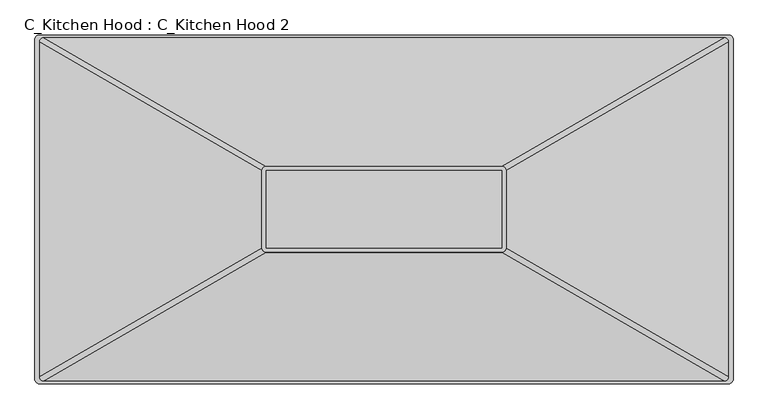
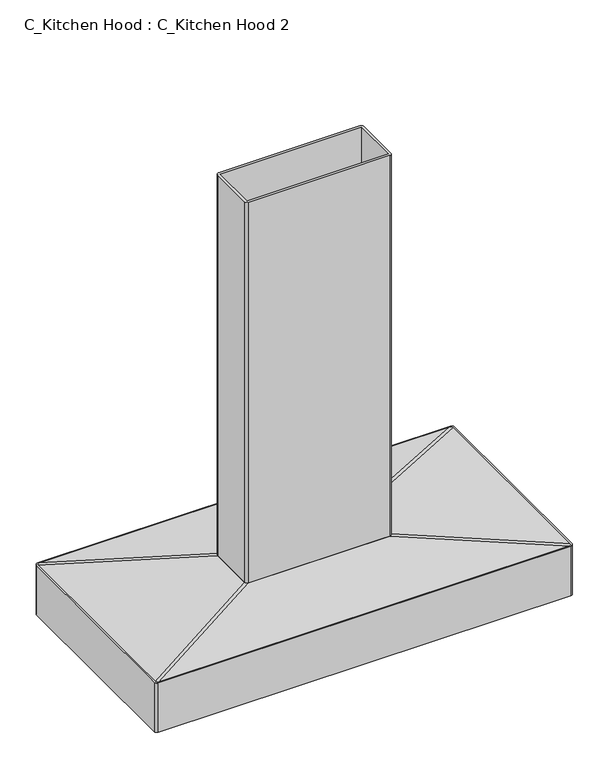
"""IFC4 building model written with IfcOpenShell, lengths in millimetres: proxy geometry, C_Kitchen Hood : C_Kitchen Hood 2."""

from ifc_helpers import new_model, si_unit, point, frame, frame_2d, origin, origin_with_axes, place, context, project, spatial, polyline, circle_curve, trimmed, segment, composite_curve, outline, extrude, source, transform, mapped, element, save
from ifc_brep_helpers import plane_surface, extruded_surface, advanced_brep


def c_kitchen_hood_c_kitchen_hood_2_cbf3ad54(model_context):
    return source(origin(), model_context, "Body", "SolidModel", [
        extrude(outline(composite_curve([segment(trimmed(circle_curve(frame_2d((501.65, 250.4531284)), 6.35), [point((501.65, 256.8031284))], [point((508.0, 250.4531284))], False, "CARTESIAN"), True, "CONTINUOUS"), segment(polyline([(508.0, 250.4531284), (508.0, -244.8468716)]), True, "CONTINUOUS"), segment(trimmed(circle_curve(frame_2d((501.65, -244.8468716)), 6.35), [point((508.0, -244.8468716))], [point((501.65, -251.1968716))], False, "CARTESIAN"), True, "CONTINUOUS"), segment(polyline([(501.65, -251.1968716), (-501.65, -251.1968716)]), True, "CONTINUOUS"), segment(trimmed(circle_curve(frame_2d((-501.65, -244.8468716)), 6.35), [point((-501.65, -251.1968716))], [point((-508.0, -244.8468716))], False, "CARTESIAN"), True, "CONTINUOUS"), segment(polyline([(-508.0, -244.8468716), (-508.0, 250.4531284)]), True, "CONTINUOUS"), segment(trimmed(circle_curve(frame_2d((-501.65, 250.4531284)), 6.35), [point((-508.0, 250.4531284))], [point((-501.65, 256.8031284))], False, "CARTESIAN"), True, "CONTINUOUS"), segment(polyline([(-501.65, 256.8031284), (501.65, 256.8031284)]), True, "CONTINUOUS")], self_intersect=False), holes=[polyline([(457.2, 206.0031284), (-457.2, 206.0031284), (-457.2, -200.3968716), (457.2, -200.3968716), (457.2, 206.0031284)])]), origin_with_axes(), (0.0, 0.0, 1.0), 127.0),
        extrude(outline(composite_curve([segment(polyline([(-177.8, -53.3469326), (-177.8, 58.9531894)]), True, "CONTINUOUS"), segment(trimmed(circle_curve(frame_2d((-171.45, 58.9531894)), 6.35), [point((-177.8, 58.9531894))], [point((-171.45, 65.3031894))], False, "CARTESIAN"), True, "CONTINUOUS"), segment(polyline([(-171.45, 65.3031894), (171.45, 65.3031894)]), True, "CONTINUOUS"), segment(trimmed(circle_curve(frame_2d((171.45, 58.9531894)), 6.35), [point((171.45, 65.3031894))], [point((177.8, 58.9531894))], False, "CARTESIAN"), True, "CONTINUOUS"), segment(polyline([(177.8, 58.9531894), (177.8, -53.3469326)]), True, "CONTINUOUS"), segment(trimmed(circle_curve(frame_2d((171.45, -53.3469326)), 6.35), [point((177.8, -53.3469326))], [point((171.45, -59.6969326))], False, "CARTESIAN"), True, "CONTINUOUS"), segment(polyline([(171.45, -59.6969326), (-171.45, -59.6969326)]), True, "CONTINUOUS"), segment(trimmed(circle_curve(frame_2d((-171.45, -53.3469326)), 6.35), [point((-171.45, -59.6969326))], [point((-177.8, -53.3469326))], False, "CARTESIAN"), True, "CONTINUOUS")], self_intersect=False), holes=[polyline([(171.45, 58.9531894), (-171.45, 58.9531894), (-171.45, -53.3469326), (171.45, -53.3469326), (171.45, 58.9531894)])]), frame((0.0, 0.0, 152.4), z_axis=(0.0, 0.0, 1.0), x_axis=(1.0, 0.0, 0.0)), (0.0, 0.0, 1.0), 977.9),
        advanced_brep(
        [(-177.8, 58.9531894, 152.4), (-177.8, -53.3469326, 152.4), (-171.45, -59.6969326, 152.4), (171.45, -59.6969326, 152.4), (177.8, -53.3469326, 152.4), (177.8, 58.9531894, 152.4), (171.45, 65.3031894, 152.4), (-171.45, 65.3031894, 152.4), (-508.0, 250.4531284, 127.0), (-501.65, 256.8031284, 127.0), (501.65, 256.8031284, 127.0), (508.0, 250.4531284, 127.0), (508.0, -244.8468716, 127.0), (501.65, -251.1968716, 127.0), (-501.65, -251.1968716, 127.0), (-508.0, -244.8468716, 127.0)],
        [
            (0, 1),
            (1, 2, circle_curve(frame((-171.45, -53.3469326, 152.4), z_axis=(0.0, 0.0, 1.0), x_axis=(0.0, -1.0, 0.0)), 6.35)),
            (2, 3),
            (3, 4, circle_curve(frame((171.45, -53.3469326, 152.4), z_axis=(0.0, 0.0, 1.0), x_axis=(0.0, -1.0, 0.0)), 6.35)),
            (4, 5),
            (5, 6, circle_curve(frame((171.45, 58.9531894, 152.4), z_axis=(0.0, 0.0, 1.0), x_axis=(0.0, -1.0, 0.0)), 6.35)),
            (6, 7),
            (7, 0, circle_curve(frame((-171.45, 58.9531894, 152.4), z_axis=(0.0, 0.0, 1.0), x_axis=(0.0, -1.0, 0.0)), 6.35)),
            (8, 9, circle_curve(frame((-501.65, 250.4531284, 127.0), z_axis=(0.0, 0.0, -1.0), x_axis=(0.0, -1.0, 0.0)), 6.35)),
            (9, 10),
            (10, 11, circle_curve(frame((501.65, 250.4531284, 127.0), z_axis=(0.0, 0.0, -1.0), x_axis=(0.0, -1.0, 0.0)), 6.35)),
            (11, 12),
            (12, 13, circle_curve(frame((501.65, -244.8468716, 127.0), z_axis=(0.0, 0.0, -1.0), x_axis=(0.0, -1.0, 0.0)), 6.35)),
            (13, 14),
            (14, 15, circle_curve(frame((-501.65, -244.8468716, 127.0), z_axis=(0.0, 0.0, -1.0), x_axis=(0.0, -1.0, 0.0)), 6.35)),
            (15, 8),
            (15, 1),
            (0, 8),
            (13, 3),
            (2, 14),
            (11, 5),
            (4, 12),
            (10, 6),
            (9, 7),
        ],
        [
            plane_surface(frame((0.0, 2.8031284, 152.4), z_axis=(0.0, 0.0, 1.0), x_axis=(0.0, -1.0, 0.0))),
            plane_surface(frame((0.0, 2.8031284, 127.0), z_axis=(0.0, 0.0, -1.0), x_axis=(0.0, -1.0, 0.0))),
            plane_surface(frame((-508.0, 2.8031284, 127.0), z_axis=(-0.07669649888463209, 0.0, 0.9970544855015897), x_axis=(0.0, -1.0, 0.0))),
            plane_surface(frame((0.0, -251.1968716, 127.0), z_axis=(0.0, -0.13148557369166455, 0.9913180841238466), x_axis=(1.0, 0.0, 0.0))),
            plane_surface(frame((508.0, 2.8031284, 127.0), z_axis=(0.07669649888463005, 0.0, 0.9970544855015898), x_axis=(0.0, 1.0, 0.0))),
            extruded_surface(trimmed(circle_curve(frame((-501.65, -244.8468716, 127.0), z_axis=(0.0, 0.0, 1.0), x_axis=(0.0, -1.0, 0.0)), 6.35), [point((-508.0, -244.8468716, 127.0))], [point((-501.65, -251.1968716, 127.0))], True, "CARTESIAN"), (330.2, 191.49993899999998, 25.400000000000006), 382.55643588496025),
            extruded_surface(trimmed(circle_curve(frame((501.65, -244.8468716, 127.0), z_axis=(0.0, 0.0, 1.0), x_axis=(0.0, -1.0, 0.0)), 6.35), [point((501.65, -251.1968716, 127.0))], [point((508.0, -244.8468716, 127.0))], True, "CARTESIAN"), (-330.2, 191.49993899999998, 25.400000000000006), 382.55643588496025),
            extruded_surface(trimmed(circle_curve(frame((501.65, 250.4531284, 127.0), z_axis=(0.0, 0.0, 1.0), x_axis=(0.0, -1.0, 0.0)), 6.35), [point((508.0, 250.4531284, 127.0))], [point((501.65, 256.8031284, 127.0))], True, "CARTESIAN"), (-330.2, -191.49993899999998, 25.400000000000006), 382.55643588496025),
            plane_surface(frame((0.0, 256.8031284, 127.0), z_axis=(0.0, 0.13148557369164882, 0.9913180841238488), x_axis=(-1.0, 0.0, 0.0))),
            extruded_surface(trimmed(circle_curve(frame((-501.65, 250.4531284, 127.0), z_axis=(0.0, 0.0, 1.0), x_axis=(0.0, -1.0, 0.0)), 6.35), [point((-501.65, 256.8031284, 127.0))], [point((-508.0, 250.4531284, 127.0))], True, "CARTESIAN"), (330.2, -191.49993899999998, 25.400000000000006), 382.55643588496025),
        ],
        [
            (0, [[1, 2, 3, 4, 5, 6, 7, 8]]),
            (1, [[9, 10, 11, 12, 13, 14, 15, 16]]),
            (2, [[-16, 17, -1, 18]]),
            (3, [[-14, 19, -3, 20]]),
            (4, [[-12, 21, -5, 22]]),
            (5, [[-15, -20, -2, -17]]),
            (6, [[-13, -22, -4, -19]]),
            (7, [[-11, 23, -6, -21]]),
            (8, [[-10, 24, -7, -23]]),
            (9, [[-9, -18, -8, -24]]),
        ],
    ),
        extrude(outline(polyline([(-25.4, 206.0031284), (25.4, 206.0031284), (25.4, -200.3968716), (-25.4, -200.3968716), (-25.4, 206.0031284)])), frame((0.0, 0.0, 12.7), z_axis=(0.0, 0.0, 1.0), x_axis=(1.0, 0.0, 0.0)), (0.0, 0.0, 1.0), 12.7),
        extrude(outline(polyline([(457.2, 206.0031284), (457.2, -200.3968716), (-457.2, -200.3968716), (-457.2, 206.0031284), (457.2, 206.0031284)])), frame((0.0, 0.0, 25.4), z_axis=(0.0, 0.0, 1.0), x_axis=(1.0, 0.0, 0.0)), (0.0, 0.0, 1.0), 12.7),
    ])


if __name__ == "__main__":
    model = new_model("IFC4")
    model_context = context("Model", 3, world=origin())
    ifc_project = project(units=[si_unit("LENGTHUNIT", "METRE", prefix="MILLI")], contexts=[model_context])
    site = spatial("IfcSite", under=ifc_project)
    building = spatial("IfcBuilding", under=site)
    placement = place(None, origin())
    c_kitchen_hood_c_kitchen_hood_2_shape = c_kitchen_hood_c_kitchen_hood_2_cbf3ad54(model_context)
    element("IfcBuildingElementProxy", 1, Name="C_Kitchen Hood : C_Kitchen Hood 2", ObjectType="C_Kitchen Hood : C_Kitchen Hood 2", at=placement, inside=building, context=model_context, shape_type="MappedRepresentation", body=[
        mapped(c_kitchen_hood_c_kitchen_hood_2_shape, transform((0.0, 0.0, 0.0), x_axis=(1.0, 0.0, 0.0), y_axis=(0.0, 1.0, 0.0), z_axis=(0.0, 0.0, 1.0))),
    ])
    save(model, "model.ifc")
